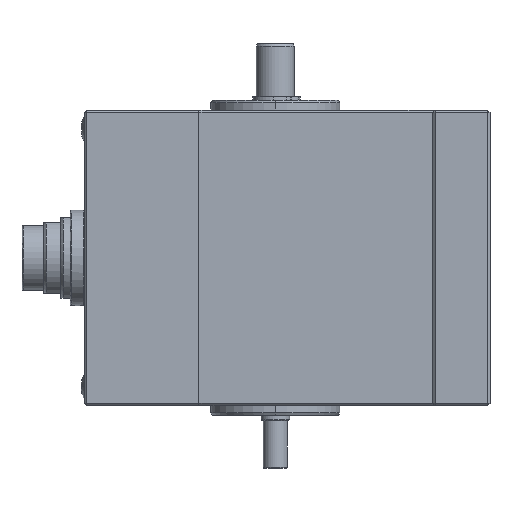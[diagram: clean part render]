
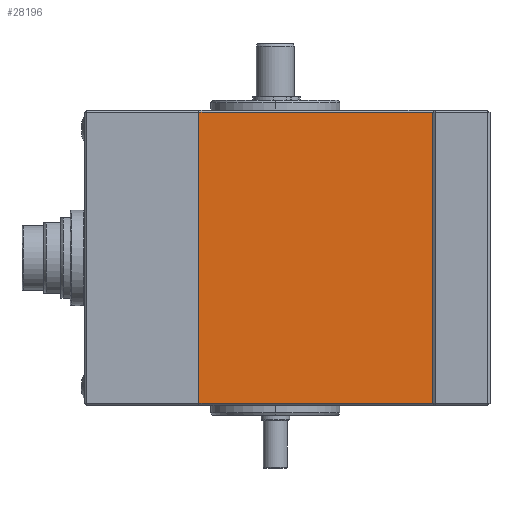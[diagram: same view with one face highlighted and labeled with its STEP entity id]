
A CAD part, left-side view. The second image highlights one B-rep face of the part: STEP entity #28196.
In plain terms, the highlighted planar face has unit normal (-1, 0, 0).
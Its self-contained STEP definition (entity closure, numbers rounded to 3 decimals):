
#1198 = DIRECTION ( 'NONE',  ( 1., 0., 0. ) ) ;
#1960 = CARTESIAN_POINT ( 'NONE',  ( -14., -33., 0.5 ) ) ;
#3495 = CARTESIAN_POINT ( 'NONE',  ( -14., -33., 0.5 ) ) ;
#3799 = CARTESIAN_POINT ( 'NONE',  ( -14., 16., 64. ) ) ;
#4246 = CARTESIAN_POINT ( 'NONE',  ( -14., 16., 61.5 ) ) ;
#7094 = VECTOR ( 'NONE', #37656, 1000. ) ;
#9482 = LINE ( 'NONE', #1960, #30452 ) ;
#10860 = VERTEX_POINT ( 'NONE', #3495 ) ;
#11386 = DIRECTION ( 'NONE',  ( 0., 0., -1. ) ) ;
#11614 = ORIENTED_EDGE ( 'NONE', *, *, #38926, .T. ) ;
#11897 = AXIS2_PLACEMENT_3D ( 'NONE', #39228, #1198, #11386 ) ;
#12022 = PLANE ( 'NONE',  #11897 ) ;
#13046 = VERTEX_POINT ( 'NONE', #4246 ) ;
#13321 = CARTESIAN_POINT ( 'NONE',  ( -14., 16., 61.5 ) ) ;
#14338 = CARTESIAN_POINT ( 'NONE',  ( -14., -33., 61.5 ) ) ;
#15003 = CARTESIAN_POINT ( 'NONE',  ( -14., -33., 64. ) ) ;
#15063 = DIRECTION ( 'NONE',  ( 0., 0., -1. ) ) ;
#15169 = FACE_OUTER_BOUND ( 'NONE', #19395, .T. ) ;
#15986 = VERTEX_POINT ( 'NONE', #39795 ) ;
#19395 = EDGE_LOOP ( 'NONE', ( #27029, #11614, #22681, #38756 ) ) ;
#19748 = DIRECTION ( 'NONE',  ( 0., -1., 0. ) ) ;
#21520 = DIRECTION ( 'NONE',  ( 0., 0., 1. ) ) ;
#22681 = ORIENTED_EDGE ( 'NONE', *, *, #23408, .T. ) ;
#23408 = EDGE_CURVE ( 'NONE', #13046, #15986, #34484, .T. ) ;
#27029 = ORIENTED_EDGE ( 'NONE', *, *, #29040, .T. ) ;
#28196 = ADVANCED_FACE ( 'NONE', ( #15169 ), #12022, .F. ) ;
#29040 = EDGE_CURVE ( 'NONE', #10860, #44079, #35090, .T. ) ;
#30452 = VECTOR ( 'NONE', #19748, 1000. ) ;
#33349 = VECTOR ( 'NONE', #15063, 1000. ) ;
#34484 = LINE ( 'NONE', #3799, #33349 ) ;
#35090 = LINE ( 'NONE', #15003, #44007 ) ;
#37656 = DIRECTION ( 'NONE',  ( 0., 1., 0. ) ) ;
#38756 = ORIENTED_EDGE ( 'NONE', *, *, #43725, .T. ) ;
#38926 = EDGE_CURVE ( 'NONE', #44079, #13046, #44181, .T. ) ;
#39228 = CARTESIAN_POINT ( 'NONE',  ( -14., -14., 64. ) ) ;
#39795 = CARTESIAN_POINT ( 'NONE',  ( -14., 16., 0.5 ) ) ;
#43725 = EDGE_CURVE ( 'NONE', #15986, #10860, #9482, .T. ) ;
#44007 = VECTOR ( 'NONE', #21520, 1000. ) ;
#44079 = VERTEX_POINT ( 'NONE', #14338 ) ;
#44181 = LINE ( 'NONE', #13321, #7094 ) ;
